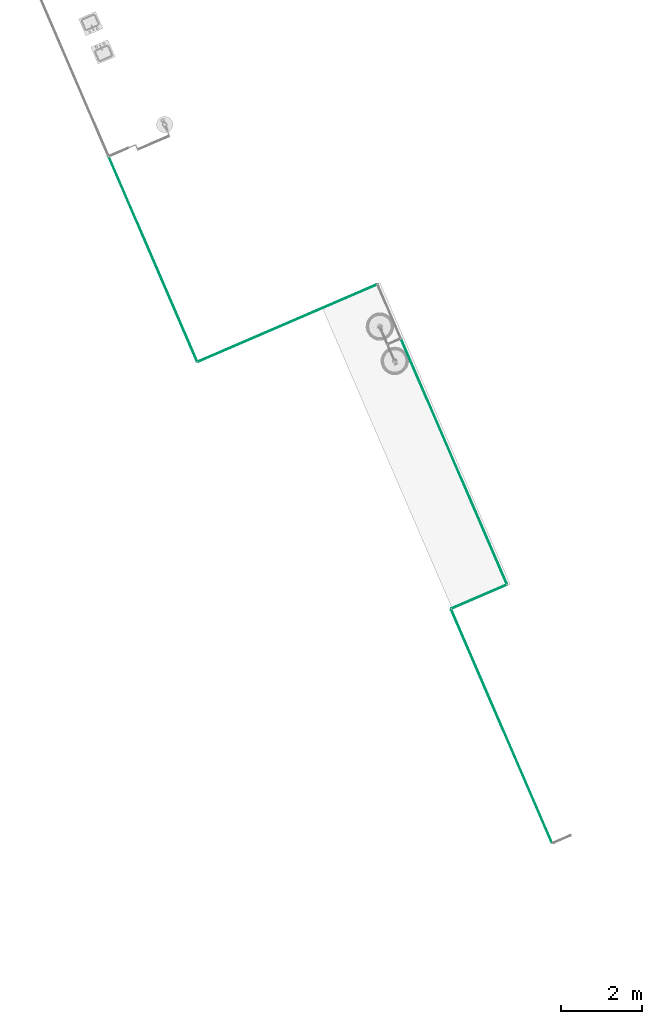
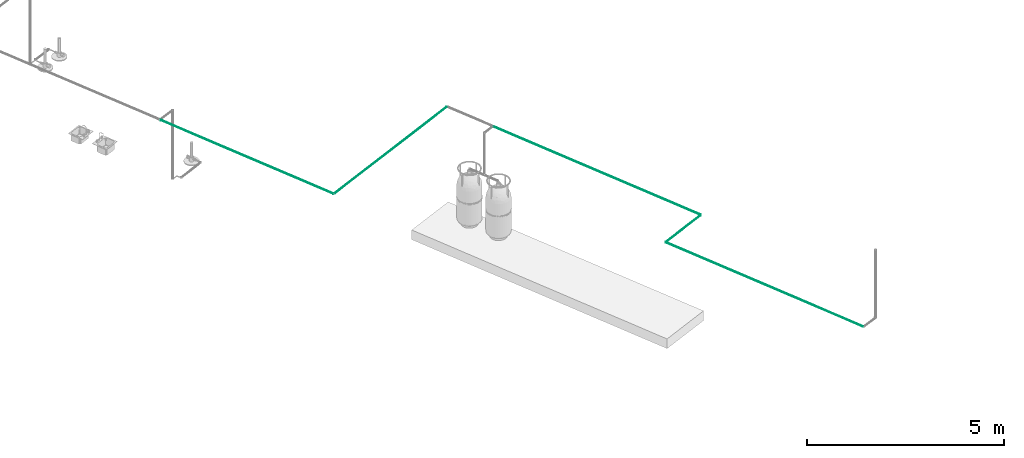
# One storey, part 6 of 26: 5 pipe segments.
"""IFC4 building model written with IfcOpenShell, lengths in metres."""

from ifc_helpers import new_model, entity, si_unit, converted_unit, derived_unit, direction, frame, origin, place, context, subcontext, project, spatial, arc, indexed_curve, outline, extrude, material, type_object, element, save


model = new_model("IFC4")

# Units and contexts
model_context = context("Model", 3, precision=1e-05, world=origin(), true_north=direction((6.12323399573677e-17, 1.0)))
body_context = subcontext(model_context, "Body", "Model", "MODEL_VIEW")
ifc_project = project(units=[si_unit("LENGTHUNIT", "METRE"), si_unit("AREAUNIT", "SQUARE_METRE"), si_unit("VOLUMEUNIT", "CUBIC_METRE"), si_unit("PRESSUREUNIT", "PASCAL"), derived_unit("VOLUMETRICFLOWRATEUNIT", [(si_unit("LENGTHUNIT", "METRE", prefix="DECI"), 3), (si_unit("TIMEUNIT", "SECOND"), -1)]), converted_unit("PLANEANGLEUNIT", "DEGREE", entity("IfcPlaneAngleMeasure", 0.0174532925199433), si_unit("PLANEANGLEUNIT", "RADIAN"), dimensions=[0, 0, 0, 0, 0, 0, 0])], contexts=[model_context])

# Site, building, storey
site_placement = place(None, origin())
site = spatial("IfcSite", under=ifc_project, at=site_placement, Name="Default", CompositionType="ELEMENT")
building_placement = place(site_placement, frame((24.575451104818, -55.896759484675, 317.15), z_axis=(0.0, 0.0, 1.0), x_axis=(-0.396377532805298, 0.918087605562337, 0.0)))
building = spatial("IfcBuilding", under=site, at=building_placement, CompositionType="ELEMENT")
storey_placement = place(building_placement, origin())
storey = spatial("IfcBuildingStorey", under=building, at=storey_placement, Name="Nivel 1", CompositionType="ELEMENT", Elevation=0.0)

# Pipe segments
ifc_material = material(Name="Cobre", Category="Undefined")
pipe_segment_type_1 = type_object("IfcPipeSegmentType", Name="Pipe Types:GAS", PredefinedType="NOTDEFINED")
pipe_segment_1_placement = place(storey_placement, origin())
element("IfcPipeSegment", 1, at=pipe_segment_1_placement, inside=storey, type_object=pipe_segment_type_1, material=ifc_material, Name="Pipe Types:GAS", ObjectType="Pipe Types:GAS", PredefinedType="NOTDEFINED", context=body_context, shape_type="SweptSolid", body=[
    extrude(outline(indexed_curve([(0.00999999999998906, 0.0), (0.00707106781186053, 0.00707106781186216), (0.0, 0.00999999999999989), (-0.00707106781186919, 0.00707106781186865), (-0.0100000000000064, 0.0), (-0.00707106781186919, -0.00707106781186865), (0.0, -0.00999999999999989), (0.00707106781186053, -0.0070710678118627)], segments=[arc(1, 2, 3), arc(3, 4, 5), arc(5, 6, 7), arc(7, 8, 1)], self_intersect=False)), frame((23.5387294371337, 42.5138766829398, 3.0), z_axis=(1.0, 0.0, 0.0), x_axis=(0.0, 1.0, 0.0)), (0.0, 0.0, 1.0), 5.45676498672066),
])
pipe_segment_2_placement = place(storey_placement, origin())
element("IfcPipeSegment", 2, at=pipe_segment_2_placement, inside=storey, type_object=pipe_segment_type_1, material=ifc_material, Name="Pipe Types:GAS", ObjectType="Pipe Types:GAS", PredefinedType="NOTDEFINED", context=body_context, shape_type="SweptSolid", body=[
    extrude(outline(indexed_curve([(0.0099999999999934, 0.0), (0.00707106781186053, 0.00707106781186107), (4.33146851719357e-15, 0.00999999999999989), (-0.00707106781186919, 0.00707106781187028), (-0.0100000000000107, 0.0), (-0.00707106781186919, -0.00707106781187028), (4.33146851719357e-15, -0.00999999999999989), (0.00707106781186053, -0.00707106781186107)], segments=[arc(1, 2, 3), arc(3, 4, 5), arc(5, 6, 7), arc(7, 8, 1)], self_intersect=False)), frame((15.5074625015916, 37.6988315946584, 3.0), z_axis=(1.0, 0.0, 0.0), x_axis=(0.0, 1.0, 0.0)), (0.0, 0.0, 1.0), 6.53743960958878),
])
pipe_segment_3_placement = place(storey_placement, origin())
element("IfcPipeSegment", 3, at=pipe_segment_3_placement, inside=storey, type_object=pipe_segment_type_1, material=ifc_material, Name="Pipe Types:GAS", ObjectType="Pipe Types:GAS", PredefinedType="NOTDEFINED", context=body_context, shape_type="SweptSolid", body=[
    extrude(outline(indexed_curve([(0.00999999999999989, 0.0), (0.00707106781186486, 0.0070710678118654), (0.0, 0.00999999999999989), (-0.00707106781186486, 0.0070710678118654), (-0.00999999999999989, 0.0), (-0.00707106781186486, -0.0070710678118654), (0.0, -0.00999999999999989), (0.00707106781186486, -0.0070710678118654)], segments=[arc(1, 2, 3), arc(3, 4, 5), arc(5, 6, 7), arc(7, 8, 1)], self_intersect=False)), frame((15.4900000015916, 37.7162940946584, 3.0), z_axis=(0.0, 1.0, 0.0), x_axis=(1.0, 0.0, 0.0)), (0.0, 0.0, 1.0), 1.46786689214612),
])
pipe_segment_4_placement = place(storey_placement, origin())
element("IfcPipeSegment", 4, at=pipe_segment_4_placement, inside=storey, type_object=pipe_segment_type_1, material=ifc_material, Name="Pipe Types:GAS", ObjectType="Pipe Types:GAS", PredefinedType="NOTDEFINED", context=body_context, shape_type="SweptSolid", body=[
    extrude(outline(indexed_curve([(0.00999999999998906, 0.0), (0.00707106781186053, 0.00707106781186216), (0.0, 0.00999999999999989), (-0.00707106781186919, 0.00707106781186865), (-0.0100000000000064, 0.0), (-0.00707106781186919, -0.00707106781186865), (0.0, -0.00999999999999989), (0.00707106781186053, -0.0070710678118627)], segments=[arc(1, 2, 3), arc(3, 4, 5), arc(5, 6, 7), arc(7, 8, 1)], self_intersect=False)), frame((9.23600154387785, 39.2016234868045, 3.0), z_axis=(1.0, 0.0, 0.0), x_axis=(0.0, 1.0, 0.0)), (0.0, 0.0, 1.0), 6.2365359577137),
])
pipe_segment_type_2 = type_object("IfcPipeSegmentType", Name="Pipe Types:Norma", PredefinedType="NOTDEFINED")
pipe_segment_5_placement = place(storey_placement, origin())
element("IfcPipeSegment", 5, at=pipe_segment_5_placement, inside=storey, type_object=pipe_segment_type_2, material=ifc_material, Name="Pipe Types:Norma", ObjectType="Pipe Types:Norma", PredefinedType="NOTDEFINED", context=body_context, shape_type="SweptSolid", body=[
    extrude(outline(indexed_curve([(0.0100000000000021, 0.0), (0.00707106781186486, 0.0070710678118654), (0.0, 0.00999999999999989), (-0.00707106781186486, 0.0070710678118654), (-0.0100000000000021, 0.0), (-0.00707106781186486, -0.0070710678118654), (0.0, -0.00999999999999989), (0.00707106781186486, -0.0070710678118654)], segments=[arc(1, 2, 3), arc(3, 4, 5), arc(5, 6, 7), arc(7, 8, 1)], self_intersect=False)), frame((23.5212669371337, 37.7162940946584, 3.0), z_axis=(0.0, 1.0, 0.0), x_axis=(1.0, 0.0, 0.0)), (0.0, 0.0, 1.0), 4.7801200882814),
])

save(model, "model.ifc")
